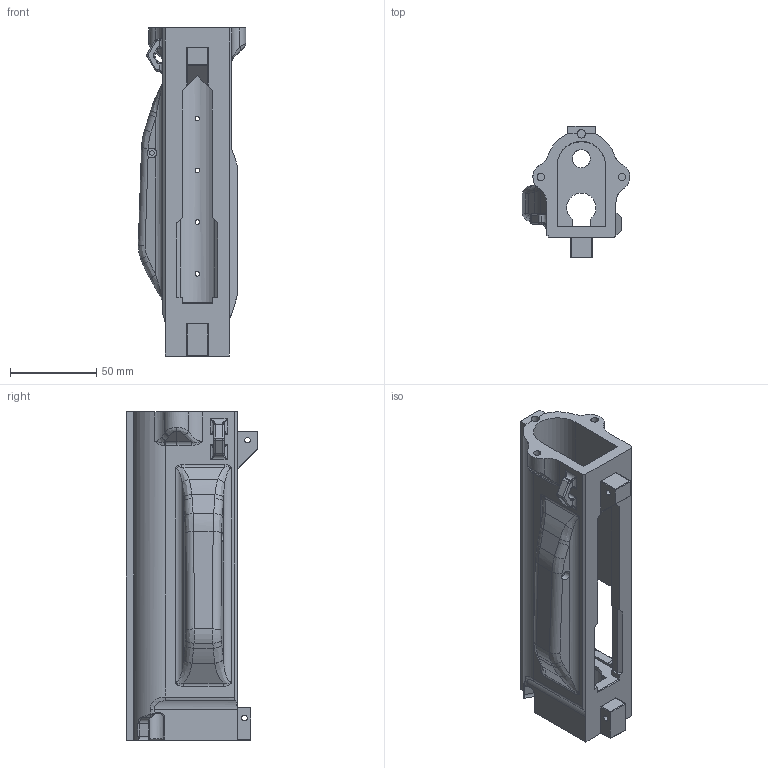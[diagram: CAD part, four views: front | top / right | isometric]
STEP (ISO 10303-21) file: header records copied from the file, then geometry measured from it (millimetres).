
FILE_DESCRIPTION(/* description */ (''),/* implementation_level */ '2;1');
FILE_NAME(/* name */ 'D:/Pew Pews/FGC-9_MkII_Stingray_Edition/Stingray Edition/.step files/1 - Upper/Upper Receiver.step',/* time_stamp */ '2022-05-11T21:22:43-06:00',/* author */ (''),/* organization */ (''),/* preprocessor_version */ 'ST-DEVELOPER v18.1',/* originating_system */ 'Autodesk Translation Framework v10.10.0.1391',/* authorisation */ '');
FILE_SCHEMA (('AUTOMOTIVE_DESIGN { 1 0 10303 214 3 1 1 }'));
Length unit declared in the file: millimetre
Products named in the file (1): Upper Receiver
Bounding box: 62.37 x 76.47 x 190.38 mm (x, y, z)
Volume: 206160.2 mm3; surface area: 72255.1 mm2
Topology: 1 solids, 2 shells, 345 faces, 853 edges, 510 vertices
Faces by surface type: cylinder 124, plane 118, bspline 73, torus 15, sphere 8, cone 7
Full cylindrical faces by diameter (mm): 2.65 x8, 2.7 x4, 3 x7, 3.2 x1, 3.3 x1, 4.35 x2, 4.5 x3, 4.9 x1, 5.65 x1, 10.5 x1, 28.3 x1
Entity records: 12389 total; most frequent: CARTESIAN_POINT 4476, ORIENTED_EDGE 1668, DIRECTION 1575, EDGE_CURVE 834, AXIS2_PLACEMENT_3D 589, VERTEX_POINT 510, LINE 397, VECTOR 397
